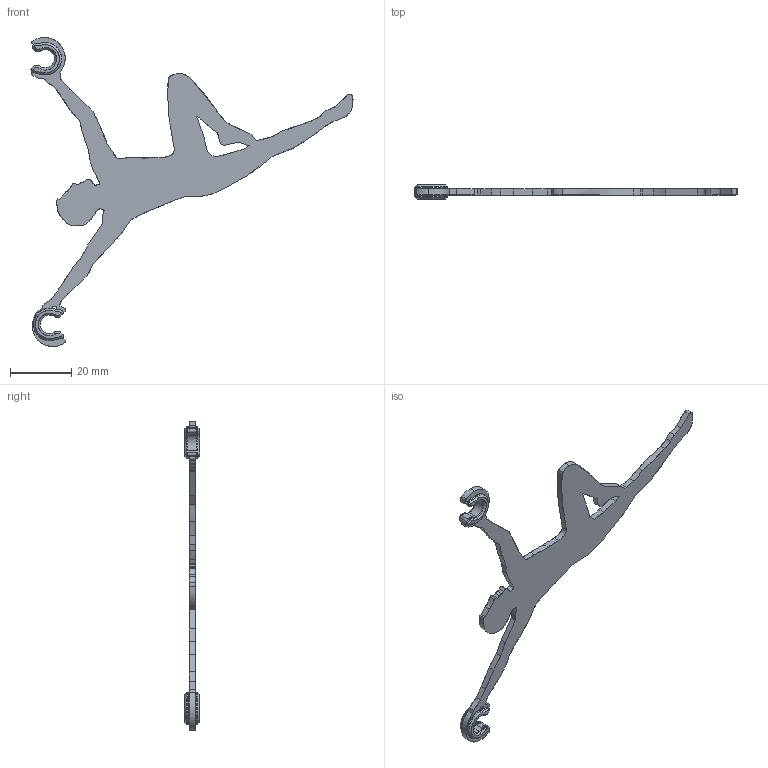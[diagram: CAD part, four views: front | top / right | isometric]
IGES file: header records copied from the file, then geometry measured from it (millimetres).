
Start section: SolidWorks IGES file using analytic representation for surfaces
Global section: file name: Y:\PRODUKT\DESIGN\ACROBAT\ACROBAT 1\ACROBAT 1.IGS; native system: SolidWorks 2024; preprocessor: SolidWorks 2024; author: anna.bielnik; date: 250320.080849; units: millimetre
Bounding box: 105.27 x 4.98 x 101.06 mm (x, y, z)
Surface area: 5705.5 mm2 (no closed solid volume)
Topology: 0 solids, 0 shells, 394 faces, 3266 edges, 3266 vertices
Faces by surface type: bspline 235, revolution 159
